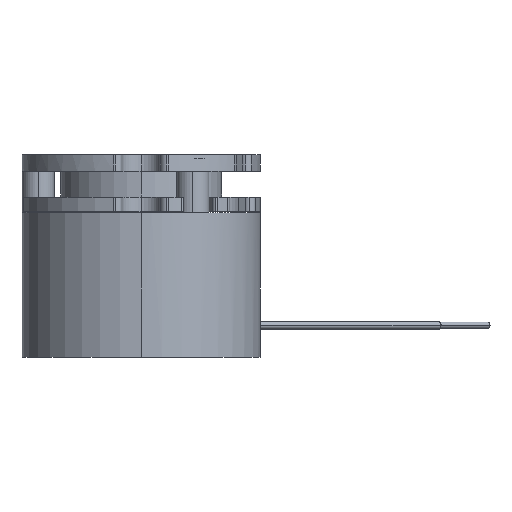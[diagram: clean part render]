
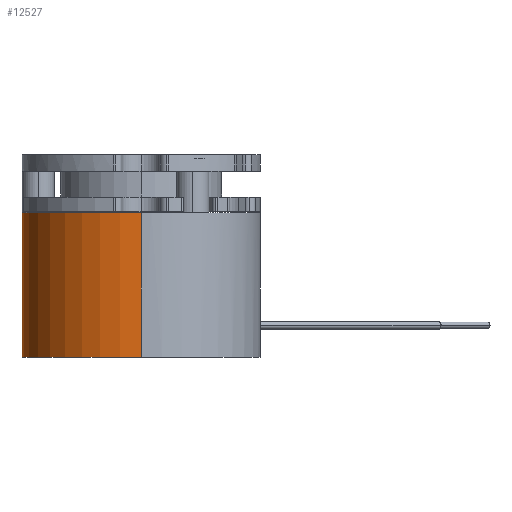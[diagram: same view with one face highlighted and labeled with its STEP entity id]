
A CAD part, left-side view. The second image highlights one B-rep face of the part: STEP entity #12527.
In plain terms, the highlighted cylindrical face has radius 18.5 mm (diameter 37 mm), a partial arc.
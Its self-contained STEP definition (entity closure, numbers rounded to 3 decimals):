
#684 = DIRECTION ( 'NONE',  ( 0., 0., -1. ) ) ;
#688 = CARTESIAN_POINT ( 'NONE',  ( 18.5, 0., 22.5 ) ) ;
#689 = DIRECTION ( 'NONE',  ( 0., 0., -1. ) ) ;
#690 = CARTESIAN_POINT ( 'NONE',  ( 0., 0., 22.5 ) ) ;
#691 = DIRECTION ( 'NONE',  ( 0., 0., 1. ) ) ;
#692 = DIRECTION ( 'NONE',  ( 1., 0., 0. ) ) ;
#693 = CARTESIAN_POINT ( 'NONE',  ( -18.5, 0., 22.5 ) ) ;
#694 = CARTESIAN_POINT ( 'NONE',  ( 0., 0., 0. ) ) ;
#695 = DIRECTION ( 'NONE',  ( 0., 0., 1. ) ) ;
#696 = DIRECTION ( 'NONE',  ( 1., 0., 0. ) ) ;
#698 = CARTESIAN_POINT ( 'NONE',  ( 0., 0., 22.5 ) ) ;
#699 = DIRECTION ( 'NONE',  ( 0., 0., 1. ) ) ;
#700 = DIRECTION ( 'NONE',  ( 1., 0., 0. ) ) ;
#978 = FACE_OUTER_BOUND ( 'NONE', #11978, .T. ) ;
#988 = CYLINDRICAL_SURFACE ( 'NONE', #2116, 18.5 ) ;
#1270 = VERTEX_POINT ( 'NONE', #10266 ) ;
#1297 = VERTEX_POINT ( 'NONE', #10275 ) ;
#1304 = VERTEX_POINT ( 'NONE', #10271 ) ;
#1305 = VERTEX_POINT ( 'NONE', #10274 ) ;
#1985 = ORIENTED_EDGE ( 'NONE', *, *, #3976, .F. ) ;
#1991 = ORIENTED_EDGE ( 'NONE', *, *, #3977, .T. ) ;
#1994 = ORIENTED_EDGE ( 'NONE', *, *, #3979, .F. ) ;
#2002 = ORIENTED_EDGE ( 'NONE', *, *, #3978, .T. ) ;
#2023 = ORIENTED_EDGE ( 'NONE', *, *, #3980, .F. ) ;
#2116 = AXIS2_PLACEMENT_3D ( 'NONE', #2474, #2475, #2483 ) ;
#2474 = CARTESIAN_POINT ( 'NONE',  ( 0., 0., 22.5 ) ) ;
#2475 = DIRECTION ( 'NONE',  ( 0., 0., -1. ) ) ;
#2483 = DIRECTION ( 'NONE',  ( -1., 0., 0. ) ) ;
#3976 = EDGE_CURVE ( 'NONE', #1270, #1304, #11769, .T. ) ;
#3977 = EDGE_CURVE ( 'NONE', #1270, #1305, #11774, .T. ) ;
#3978 = EDGE_CURVE ( 'NONE', #1305, #1297, #11772, .T. ) ;
#3979 = EDGE_CURVE ( 'NONE', #12057, #1297, #11777, .T. ) ;
#3980 = EDGE_CURVE ( 'NONE', #1304, #12057, #11775, .T. ) ;
#7382 = CARTESIAN_POINT ( 'NONE',  ( -18.5, 0., 22.5 ) ) ;
#7604 = AXIS2_PLACEMENT_3D ( 'NONE', #690, #691, #692 ) ;
#7605 = AXIS2_PLACEMENT_3D ( 'NONE', #694, #695, #696 ) ;
#7606 = AXIS2_PLACEMENT_3D ( 'NONE', #698, #699, #700 ) ;
#10266 = CARTESIAN_POINT ( 'NONE',  ( 18.5, 0., 22.5 ) ) ;
#10271 = CARTESIAN_POINT ( 'NONE',  ( 0., 18.5, 22.5 ) ) ;
#10274 = CARTESIAN_POINT ( 'NONE',  ( 18.5, 0., 0. ) ) ;
#10275 = CARTESIAN_POINT ( 'NONE',  ( -18.5, 0., 0. ) ) ;
#11769 = CIRCLE ( 'NONE', #7604, 18.5 ) ;
#11772 = CIRCLE ( 'NONE', #7605, 18.5 ) ;
#11774 = LINE ( 'NONE', #688, #11776 ) ;
#11775 = CIRCLE ( 'NONE', #7606, 18.5 ) ;
#11776 = VECTOR ( 'NONE', #684, 1000. ) ;
#11777 = LINE ( 'NONE', #693, #11779 ) ;
#11779 = VECTOR ( 'NONE', #689, 1000. ) ;
#11978 = EDGE_LOOP ( 'NONE', ( #1985, #1991, #2002, #1994, #2023 ) ) ;
#12057 = VERTEX_POINT ( 'NONE', #7382 ) ;
#12527 = ADVANCED_FACE ( 'NONE', ( #978 ), #988, .T. ) ;
